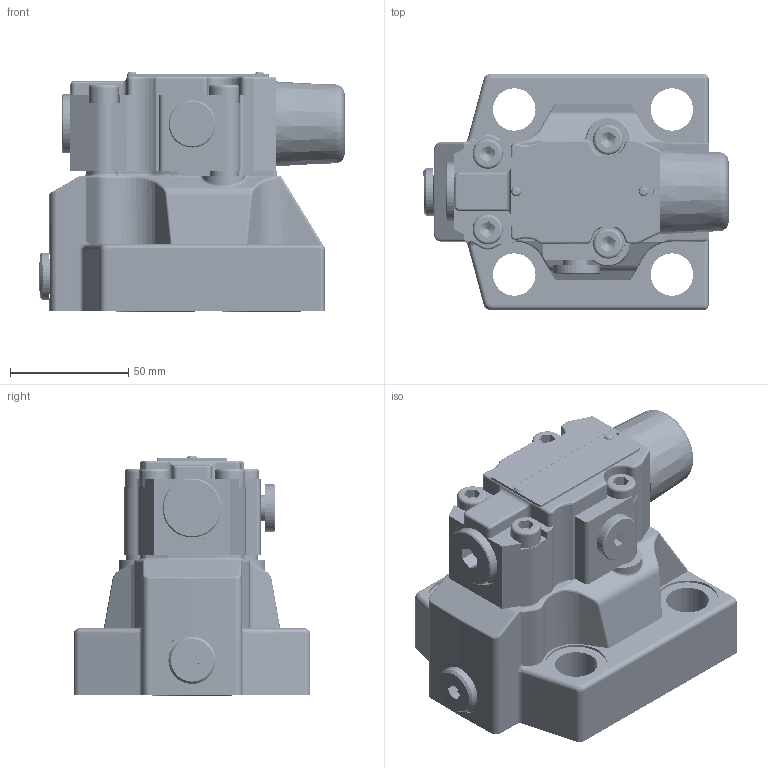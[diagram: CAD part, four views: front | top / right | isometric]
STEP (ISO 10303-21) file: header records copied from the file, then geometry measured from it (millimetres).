
FILE_DESCRIPTION(/* description */ (''),/* implementation_level */ '2;1');
FILE_NAME(/* name */ 'DB20-2-5XJ溢流阀.prt.stp',/* time_stamp */ '2022-03-30T20:09:09+08:00',/* author */ (''),/* organization */ (''),/* preprocessor_version */ 'ST-DEVELOPER v16.7',/* originating_system */ 'SIEMENS PLM Software NX 12.0',/* authorisation */ '');
FILE_SCHEMA (('AUTOMOTIVE_DESIGN { 1 0 10303 214 3 1 1 1 }'));
Products named in the file (1): DB20-2-5XJ溢流阀
Bounding box: 129.16 x 100 x 101.63 mm (x, y, z)
Volume: 170624.2 mm3; surface area: 111982.9 mm2
Topology: 20 solids, 21 shells, 668 faces, 1649 edges, 1040 vertices
Faces by surface type: plane 259, cylinder 233, bspline 86, torus 44, cone 42, sphere 4
Full cylindrical faces by diameter (mm): 1.8 x4, 1.9 x2, 2 x1, 4.2 x1, 5 x5, 6 x2, 7 x12, 8 x1, 8.4 x4, 11 x1, 11.44 x1, 11.5 x7, 12.2 x3, 12.73 x4, 16 x1, 18 x4, 19 x1, 20 x2, 23 x1, 25 x1, 26 x4, 28 x1, 30 x1, 32 x2, 34.8 x2, 38.309 x1
Entity records: 87123 total; most frequent: CARTESIAN_POINT 72188, ORIENTED_EDGE 2828, DIRECTION 2774, EDGE_CURVE 1414, AXIS2_PLACEMENT_3D 1093, VERTEX_POINT 951, EDGE_LOOP 793, ADVANCED_FACE 644
